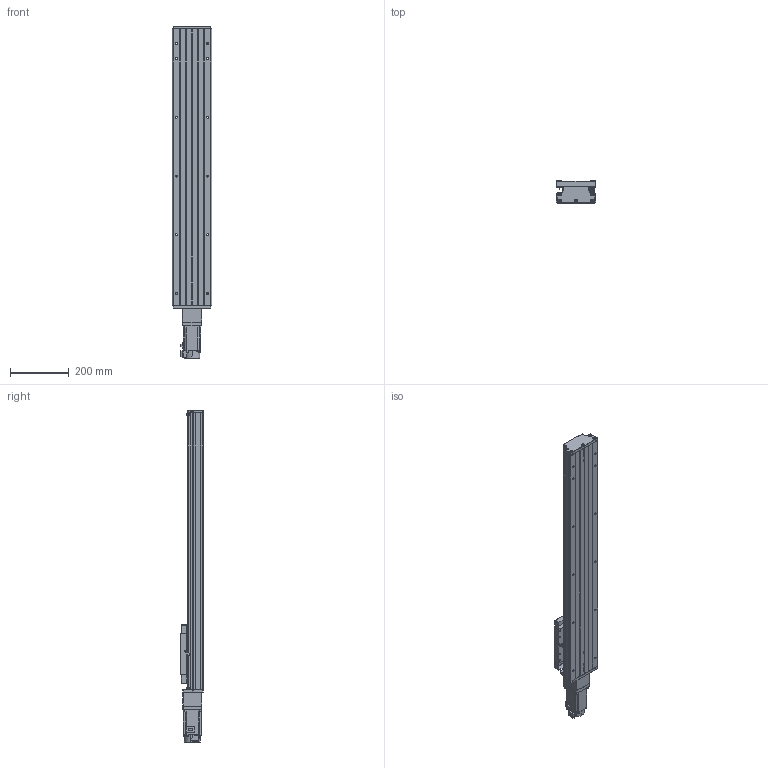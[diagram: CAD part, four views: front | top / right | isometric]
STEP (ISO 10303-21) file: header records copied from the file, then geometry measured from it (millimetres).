
FILE_DESCRIPTION (( 'STEP AP203' ), '1' );
FILE_NAME ('GTH14-700-BC-M40-C4.step', '2023-06-30T08:35:11', ( '微软用户' ), ( '微软中国' ), 'SwSTEP 2.0', 'SolidWorks 2020', '' );
FILE_SCHEMA (( 'CONFIG_CONTROL_DESIGN' ));
Length unit declared in the file: millimetre
Products named in the file (20): GTH14-700-BC-M40-C4; GBT 70.2-M3¡Á5_M3¡Á6; す晦芛蹟隊 M3℅5; GTH14-001_700; CTHA60-017; CTHA86-006-1_M40; GTH14-002_GTH14-002; EE_SX911P_R; CTHA86-013; GTH14-004; CTHA60-016; CTHA86-027-1; GTH14-005; GBT 70.1-M3℅5; HG-KN43J-S100; GB1155-6X6; GBT77-2000 M3×3; GBT 70.3-M3℅8; GBT70.1 M5℅16; GTH14-031
Assembly tree (57 placements, depth 2):
  GTH14-700-BC-M40-C4
    GTH14-001_700
    GTH14-002_GTH14-002
    GTH14-004
    GTH14-005
    GB1155-6X6  x2
    GBT70.1 M5℅16  x10
    GBT 70.2-M3¡Á5_M3¡Á6  x8
    CTHA60-017  x3
    EE_SX911P_R  x3
    CTHA60-016  x2
    GBT 70.1-M3℅5  x6
    GBT77-2000 M3×3  x6
    GTH14-031
    す晦芛蹟隊 M3℅5  x6
    CTHA86-006-1_M40
    CTHA86-013
    CTHA86-027-1
    HG-KN43J-S100
    GBT 70.3-M3℅8  x2
Bounding box: 135 x 78 x 1128.7 mm (x, y, z)
Volume: 5608393 mm3; surface area: 887583.2 mm2
Topology: 60 solids, 60 shells, 2424 faces, 5781 edges, 3570 vertices
Faces by surface type: plane 1304, cylinder 656, cone 304, torus 120, sphere 20, bspline 20
Entity records: 44728 total; most frequent: CARTESIAN_POINT 9947, DIRECTION 6576, ORIENTED_EDGE 6446, EDGE_CURVE 3223, AXIS2_PLACEMENT_3D 2243, VECTOR 2090, LINE 2090, VERTEX_POINT 2038
